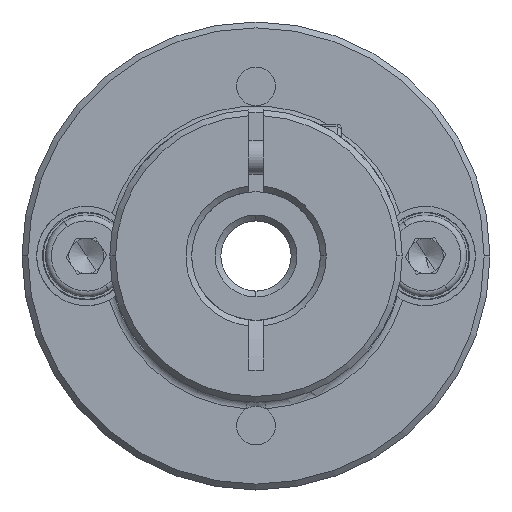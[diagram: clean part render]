
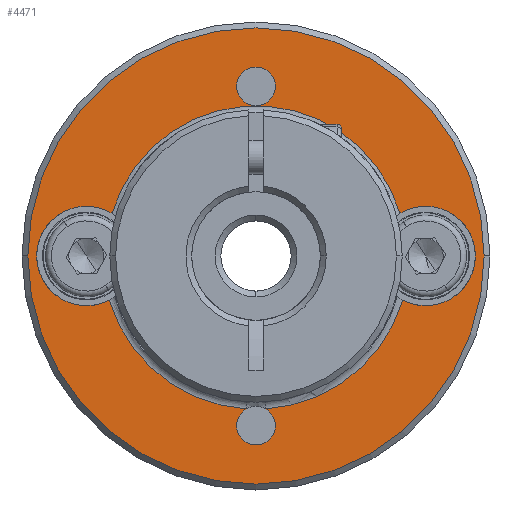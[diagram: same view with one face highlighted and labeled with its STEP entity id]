
A CAD part, front view. The second image highlights one B-rep face of the part: STEP entity #4471.
In plain terms, the highlighted planar face has unit normal (0, -1, 0).
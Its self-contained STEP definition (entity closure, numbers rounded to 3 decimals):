
#70 = EDGE_CURVE ( 'NONE', #12683, #1885, #2018, .T. ) ;
#177 = EDGE_CURVE ( 'NONE', #4104, #4664, #2929, .T. ) ;
#238 = CARTESIAN_POINT ( 'NONE',  ( -12.005, -13.63, 25.5 ) ) ;
#295 = EDGE_CURVE ( 'NONE', #10724, #3121, #7549, .T. ) ;
#314 = CARTESIAN_POINT ( 'NONE',  ( 7.495, -13.63, 40. ) ) ;
#315 = EDGE_CURVE ( 'NONE', #11956, #12402, #781, .T. ) ;
#342 = CARTESIAN_POINT ( 'NONE',  ( -26.505, -13.63, 40. ) ) ;
#391 = CARTESIAN_POINT ( 'NONE',  ( 2.495, -13.63, 40. ) ) ;
#406 = CARTESIAN_POINT ( 'NONE',  ( -10.355, -13.63, 25.5 ) ) ;
#456 = AXIS2_PLACEMENT_3D ( 'NONE', #10656, #857, #7557 ) ;
#506 = CIRCLE ( 'NONE', #2418, 1.65 ) ;
#549 = AXIS2_PLACEMENT_3D ( 'NONE', #10602, #6723, #10561 ) ;
#576 = CARTESIAN_POINT ( 'NONE',  ( -11.175, -13.63, 26.926 ) ) ;
#686 = CARTESIAN_POINT ( 'NONE',  ( -24.55, -13.63, 36.226 ) ) ;
#765 = VERTEX_POINT ( 'NONE', #5844 ) ;
#781 = CIRCLE ( 'NONE', #3078, 1.65 ) ;
#857 = DIRECTION ( 'NONE',  ( 0., -1., 0. ) ) ;
#891 = CARTESIAN_POINT ( 'NONE',  ( -12.005, -13.63, 25.5 ) ) ;
#990 = CARTESIAN_POINT ( 'NONE',  ( -12.834, -13.63, 26.926 ) ) ;
#1204 = AXIS2_PLACEMENT_3D ( 'NONE', #2647, #8488, #8451 ) ;
#1218 = AXIS2_PLACEMENT_3D ( 'NONE', #342, #8121, #7218 ) ;
#1359 = EDGE_LOOP ( 'NONE', ( #1660, #6807 ) ) ;
#1388 = DIRECTION ( 'NONE',  ( 0., -1., 0. ) ) ;
#1459 = DIRECTION ( 'NONE',  ( 0., 1., 0. ) ) ;
#1468 = EDGE_CURVE ( 'NONE', #4664, #12683, #9285, .T. ) ;
#1660 = ORIENTED_EDGE ( 'NONE', *, *, #7111, .T. ) ;
#1821 = ORIENTED_EDGE ( 'NONE', *, *, #1468, .T. ) ;
#1885 = VERTEX_POINT ( 'NONE', #576 ) ;
#1896 = FACE_BOUND ( 'NONE', #8575, .T. ) ;
#2018 = CIRCLE ( 'NONE', #7045, 13.1 ) ;
#2098 = DIRECTION ( 'NONE',  ( 1., 0., 0. ) ) ;
#2153 = CARTESIAN_POINT ( 'NONE',  ( 0.54, -13.63, 36.226 ) ) ;
#2161 = DIRECTION ( 'NONE',  ( 0., 1., 0. ) ) ;
#2418 = AXIS2_PLACEMENT_3D ( 'NONE', #891, #2778, #4673 ) ;
#2421 = DIRECTION ( 'NONE',  ( 1., 0., 0. ) ) ;
#2457 = DIRECTION ( 'NONE',  ( 1., 0., 0. ) ) ;
#2647 = CARTESIAN_POINT ( 'NONE',  ( -26.505, -13.63, 40. ) ) ;
#2778 = DIRECTION ( 'NONE',  ( 0., 1., 0. ) ) ;
#2837 = CARTESIAN_POINT ( 'NONE',  ( 0.298, -13.63, 43.638 ) ) ;
#2929 = CIRCLE ( 'NONE', #10104, 4.25 ) ;
#2936 = ORIENTED_EDGE ( 'NONE', *, *, #295, .T. ) ;
#3055 = CARTESIAN_POINT ( 'NONE',  ( -10.355, -13.63, 54.5 ) ) ;
#3078 = AXIS2_PLACEMENT_3D ( 'NONE', #3561, #5529, #7441 ) ;
#3121 = VERTEX_POINT ( 'NONE', #12484 ) ;
#3130 = ORIENTED_EDGE ( 'NONE', *, *, #9215, .T. ) ;
#3331 = EDGE_LOOP ( 'NONE', ( #3130, #5514, #4670, #6710, #1821, #9877, #10197, #11519, #12190, #9011 ) ) ;
#3381 = CARTESIAN_POINT ( 'NONE',  ( -12.005, -13.63, 54.5 ) ) ;
#3491 = EDGE_CURVE ( 'NONE', #6821, #765, #9393, .T. ) ;
#3561 = CARTESIAN_POINT ( 'NONE',  ( -12.005, -13.63, 25.5 ) ) ;
#3637 = CIRCLE ( 'NONE', #10704, 13.1 ) ;
#3781 = CARTESIAN_POINT ( 'NONE',  ( -12.005, -13.63, 40. ) ) ;
#4029 = DIRECTION ( 'NONE',  ( 1., 0., 0. ) ) ;
#4065 = VERTEX_POINT ( 'NONE', #990 ) ;
#4104 = VERTEX_POINT ( 'NONE', #2837 ) ;
#4471 = ADVANCED_FACE ( 'NONE', ( #4815, #12676, #1896 ), #9440, .T. ) ;
#4664 = VERTEX_POINT ( 'NONE', #5776 ) ;
#4670 = ORIENTED_EDGE ( 'NONE', *, *, #10562, .T. ) ;
#4673 = DIRECTION ( 'NONE',  ( 1., 0., 0. ) ) ;
#4815 = FACE_OUTER_BOUND ( 'NONE', #1359, .T. ) ;
#5303 = CARTESIAN_POINT ( 'NONE',  ( -12.005, -13.63, 40. ) ) ;
#5355 = VERTEX_POINT ( 'NONE', #8049 ) ;
#5514 = ORIENTED_EDGE ( 'NONE', *, *, #3491, .T. ) ;
#5529 = DIRECTION ( 'NONE',  ( 0., 1., 0. ) ) ;
#5776 = CARTESIAN_POINT ( 'NONE',  ( 6.745, -13.63, 40. ) ) ;
#5844 = CARTESIAN_POINT ( 'NONE',  ( -24.307, -13.63, 43.638 ) ) ;
#6065 = CIRCLE ( 'NONE', #12536, 12.829 ) ;
#6087 = DIRECTION ( 'NONE',  ( 1., 0., 0. ) ) ;
#6348 = CARTESIAN_POINT ( 'NONE',  ( -12.005, -13.63, 40. ) ) ;
#6710 = ORIENTED_EDGE ( 'NONE', *, *, #177, .T. ) ;
#6723 = DIRECTION ( 'NONE',  ( 0., 1., 0. ) ) ;
#6807 = ORIENTED_EDGE ( 'NONE', *, *, #8877, .T. ) ;
#6821 = VERTEX_POINT ( 'NONE', #12752 ) ;
#7009 = AXIS2_PLACEMENT_3D ( 'NONE', #6348, #7390, #8378 ) ;
#7045 = AXIS2_PLACEMENT_3D ( 'NONE', #9939, #9887, #4029 ) ;
#7047 = VERTEX_POINT ( 'NONE', #314 ) ;
#7104 = CARTESIAN_POINT ( 'NONE',  ( -12.005, -13.63, 40. ) ) ;
#7111 = EDGE_CURVE ( 'NONE', #5355, #7047, #10753, .T. ) ;
#7218 = DIRECTION ( 'NONE',  ( 1., 0., 0. ) ) ;
#7353 = CARTESIAN_POINT ( 'NONE',  ( -12.005, -13.63, 54.5 ) ) ;
#7390 = DIRECTION ( 'NONE',  ( 0., -1., 0. ) ) ;
#7441 = DIRECTION ( 'NONE',  ( 1., 0., 0. ) ) ;
#7475 = CIRCLE ( 'NONE', #456, 19.5 ) ;
#7549 = CIRCLE ( 'NONE', #10332, 1.65 ) ;
#7557 = DIRECTION ( 'NONE',  ( 1., 0., 0. ) ) ;
#7627 = CIRCLE ( 'NONE', #1204, 4.25 ) ;
#8002 = DIRECTION ( 'NONE',  ( 1., 0., 0. ) ) ;
#8049 = CARTESIAN_POINT ( 'NONE',  ( -31.505, -13.63, 40. ) ) ;
#8063 = CIRCLE ( 'NONE', #8315, 1.65 ) ;
#8097 = DIRECTION ( 'NONE',  ( 0., 1., 0. ) ) ;
#8121 = DIRECTION ( 'NONE',  ( 0., 1., 0. ) ) ;
#8175 = ORIENTED_EDGE ( 'NONE', *, *, #10974, .T. ) ;
#8255 = EDGE_CURVE ( 'NONE', #1885, #11956, #8269, .T. ) ;
#8269 = CIRCLE ( 'NONE', #9680, 1.65 ) ;
#8315 = AXIS2_PLACEMENT_3D ( 'NONE', #7353, #12394, #2421 ) ;
#8378 = DIRECTION ( 'NONE',  ( 1., 0., 0. ) ) ;
#8451 = DIRECTION ( 'NONE',  ( 1., 0., 0. ) ) ;
#8488 = DIRECTION ( 'NONE',  ( 0., 1., 0. ) ) ;
#8509 = AXIS2_PLACEMENT_3D ( 'NONE', #5303, #1388, #11241 ) ;
#8575 = EDGE_LOOP ( 'NONE', ( #8175, #2936 ) ) ;
#8643 = DIRECTION ( 'NONE',  ( 0., 1., 0. ) ) ;
#8877 = EDGE_CURVE ( 'NONE', #7047, #5355, #7475, .T. ) ;
#9011 = ORIENTED_EDGE ( 'NONE', *, *, #11178, .T. ) ;
#9215 = EDGE_CURVE ( 'NONE', #11035, #6821, #7627, .T. ) ;
#9285 = CIRCLE ( 'NONE', #549, 4.25 ) ;
#9393 = CIRCLE ( 'NONE', #1218, 4.25 ) ;
#9440 = PLANE ( 'NONE',  #7009 ) ;
#9680 = AXIS2_PLACEMENT_3D ( 'NONE', #238, #9909, #8002 ) ;
#9877 = ORIENTED_EDGE ( 'NONE', *, *, #70, .T. ) ;
#9887 = DIRECTION ( 'NONE',  ( 0., 1., 0. ) ) ;
#9909 = DIRECTION ( 'NONE',  ( 0., 1., 0. ) ) ;
#9939 = CARTESIAN_POINT ( 'NONE',  ( -12.005, -13.63, 40. ) ) ;
#10104 = AXIS2_PLACEMENT_3D ( 'NONE', #391, #2161, #6087 ) ;
#10197 = ORIENTED_EDGE ( 'NONE', *, *, #8255, .T. ) ;
#10332 = AXIS2_PLACEMENT_3D ( 'NONE', #3381, #1459, #2457 ) ;
#10561 = DIRECTION ( 'NONE',  ( 1., 0., 0. ) ) ;
#10562 = EDGE_CURVE ( 'NONE', #765, #4104, #6065, .T. ) ;
#10602 = CARTESIAN_POINT ( 'NONE',  ( 2.495, -13.63, 40. ) ) ;
#10656 = CARTESIAN_POINT ( 'NONE',  ( -12.005, -13.63, 40. ) ) ;
#10704 = AXIS2_PLACEMENT_3D ( 'NONE', #3781, #8643, #10783 ) ;
#10724 = VERTEX_POINT ( 'NONE', #3055 ) ;
#10753 = CIRCLE ( 'NONE', #8509, 19.5 ) ;
#10783 = DIRECTION ( 'NONE',  ( 1., 0., 0. ) ) ;
#10974 = EDGE_CURVE ( 'NONE', #3121, #10724, #8063, .T. ) ;
#11035 = VERTEX_POINT ( 'NONE', #686 ) ;
#11178 = EDGE_CURVE ( 'NONE', #4065, #11035, #3637, .T. ) ;
#11241 = DIRECTION ( 'NONE',  ( 1., 0., 0. ) ) ;
#11519 = ORIENTED_EDGE ( 'NONE', *, *, #315, .T. ) ;
#11956 = VERTEX_POINT ( 'NONE', #406 ) ;
#12125 = CARTESIAN_POINT ( 'NONE',  ( -13.655, -13.63, 25.5 ) ) ;
#12190 = ORIENTED_EDGE ( 'NONE', *, *, #12592, .T. ) ;
#12394 = DIRECTION ( 'NONE',  ( 0., 1., 0. ) ) ;
#12402 = VERTEX_POINT ( 'NONE', #12125 ) ;
#12484 = CARTESIAN_POINT ( 'NONE',  ( -13.655, -13.63, 54.5 ) ) ;
#12536 = AXIS2_PLACEMENT_3D ( 'NONE', #7104, #8097, #2098 ) ;
#12592 = EDGE_CURVE ( 'NONE', #12402, #4065, #506, .T. ) ;
#12676 = FACE_BOUND ( 'NONE', #3331, .T. ) ;
#12683 = VERTEX_POINT ( 'NONE', #2153 ) ;
#12752 = CARTESIAN_POINT ( 'NONE',  ( -30.755, -13.63, 40. ) ) ;
